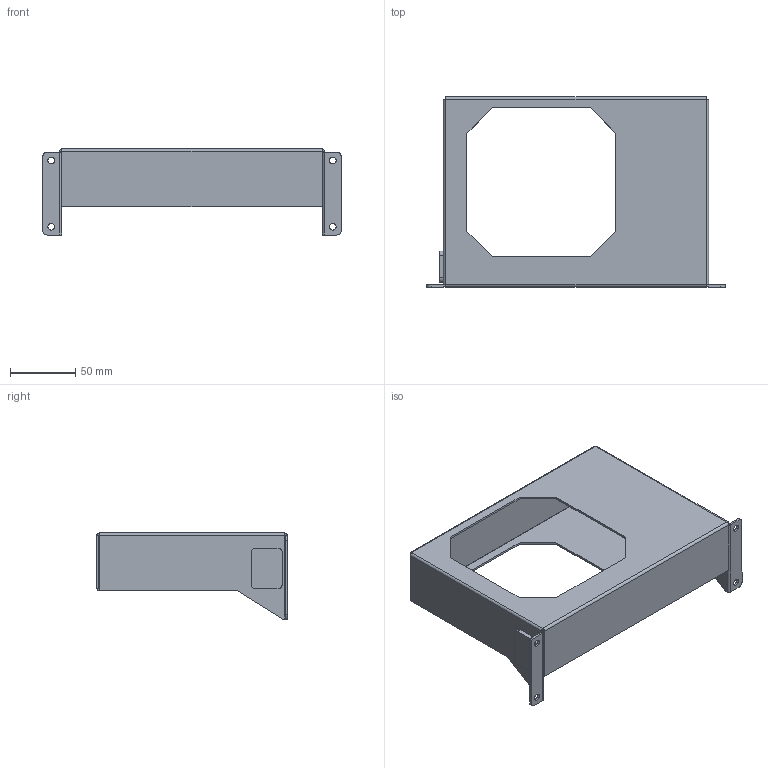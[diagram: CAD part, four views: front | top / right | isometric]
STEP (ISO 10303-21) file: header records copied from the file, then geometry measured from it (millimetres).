
FILE_DESCRIPTION (( 'STEP AP214' ), '1' );
FILE_NAME ('MK-PC10-STD.STEP', '2019-04-17T15:58:37', ( '' ), ( '' ), 'SwSTEP 2.0', 'SolidWorks 2017', '' );
FILE_SCHEMA (( 'AUTOMOTIVE_DESIGN' ));
Length unit declared in the file: inch
Products named in the file (1): MK-PC10-STD
Bounding box: 228.9 x 146.05 x 66.04 mm (x, y, z)
Volume: 106247.6 mm3; surface area: 134084.4 mm2
Topology: 1 solids, 1 shells, 191 faces, 475 edges, 298 vertices
Faces by surface type: plane 148, cylinder 30, bspline 13
Entity records: 6572 total; most frequent: CARTESIAN_POINT 2010, ORIENTED_EDGE 950, DIRECTION 867, EDGE_CURVE 475, LINE 389, VECTOR 389, VERTEX_POINT 298, AXIS2_PLACEMENT_3D 239
